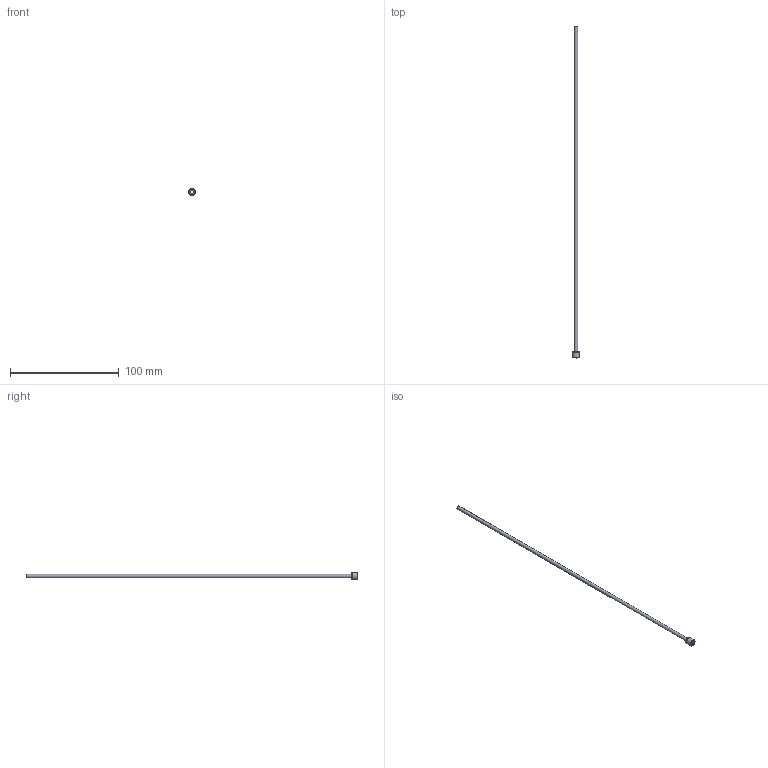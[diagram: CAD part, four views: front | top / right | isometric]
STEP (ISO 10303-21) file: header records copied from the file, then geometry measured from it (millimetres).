
FILE_DESCRIPTION(/* description */ (''),/* implementation_level */ '2;1');
FILE_NAME(/* name */ 'C:/Users/drich/Desktop/JHF125T-12 v3.step',/* time_stamp */ '2020-01-02T19:58:54-06:00',/* author */ (''),/* organization */ (''),/* preprocessor_version */ 'ST-DEVELOPER v18',/* originating_system */ 'Autodesk Translation Framework v8.12.0.6',/* authorisation */ '');
FILE_SCHEMA (('AUTOMOTIVE_DESIGN { 1 0 10303 214 3 1 1 }'));
Length unit declared in the file: inch
Products named in the file (1): JHF125T-12
Bounding box: 6.4 x 304.8 x 6.4 mm (x, y, z)
Volume: 723.2 mm3; surface area: 5798 mm2
Topology: 1 solids, 1 shells, 10 faces, 24 edges, 18 vertices
Faces by surface type: cylinder 4, plane 4, cone 1, torus 1
Full cylindrical faces by diameter (mm): 2.769 x1, 3.175 x1, 6.269 x1, 6.401 x1
Entity records: 354 total; most frequent: DIRECTION 65, CARTESIAN_POINT 53, ORIENTED_EDGE 48, AXIS2_PLACEMENT_3D 30, EDGE_CURVE 24, CIRCLE 19, VERTEX_POINT 18, EDGE_LOOP 14
